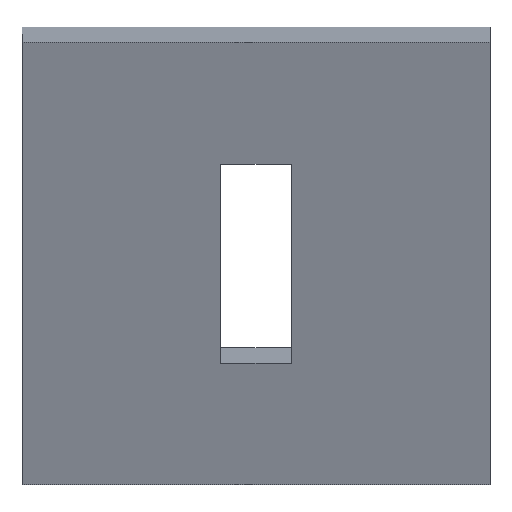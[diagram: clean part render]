
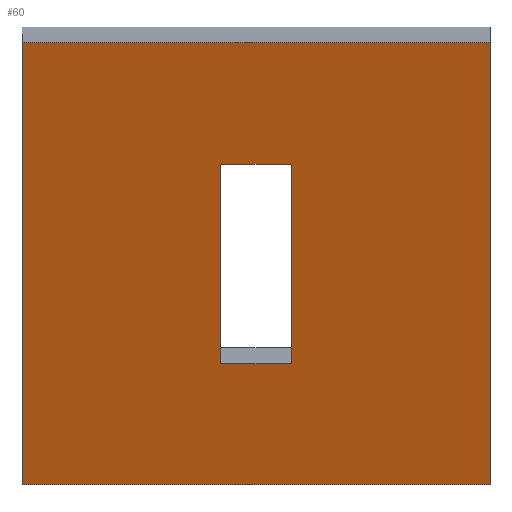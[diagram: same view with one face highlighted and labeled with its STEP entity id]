
A CAD part, left-side view. The second image highlights one B-rep face of the part: STEP entity #60.
In plain terms, the highlighted planar face has unit normal (-0.946, 0, -0.326).
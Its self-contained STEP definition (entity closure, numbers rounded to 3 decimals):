
#60=ADVANCED_FACE('',(#82,#83),#84,.T.);
#82=FACE_BOUND('',#105,.T.);
#83=FACE_OUTER_BOUND('',#106,.T.);
#84=PLANE('',#107);
#105=EDGE_LOOP('',(#176,#177,#178,#179));
#106=EDGE_LOOP('',(#180,#181,#182,#183));
#107=AXIS2_PLACEMENT_3D('',#184,#185,#186);
#176=ORIENTED_EDGE('',*,*,#195,.T.);
#177=ORIENTED_EDGE('',*,*,#198,.T.);
#178=ORIENTED_EDGE('',*,*,#188,.T.);
#179=ORIENTED_EDGE('',*,*,#192,.T.);
#180=ORIENTED_EDGE('',*,*,#200,.F.);
#181=ORIENTED_EDGE('',*,*,#210,.F.);
#182=ORIENTED_EDGE('',*,*,#207,.F.);
#183=ORIENTED_EDGE('',*,*,#204,.F.);
#184=CARTESIAN_POINT('',(211.434,31.5,-12.425));
#185=DIRECTION('',(-0.946,0.,-0.326));
#186=DIRECTION('',(0.326,0.,-0.946));
#188=EDGE_CURVE('',#212,#213,#214,.T.);
#192=EDGE_CURVE('',#213,#220,#221,.T.);
#195=EDGE_CURVE('',#220,#225,#226,.T.);
#198=EDGE_CURVE('',#225,#212,#230,.T.);
#200=EDGE_CURVE('',#232,#233,#234,.T.);
#204=EDGE_CURVE('',#233,#240,#241,.T.);
#207=EDGE_CURVE('',#240,#245,#246,.T.);
#210=EDGE_CURVE('',#245,#232,#250,.T.);
#212=VERTEX_POINT('',#252);
#213=VERTEX_POINT('',#253);
#214=LINE('',#254,#255);
#220=VERTEX_POINT('',#264);
#221=LINE('',#265,#266);
#225=VERTEX_POINT('',#272);
#226=LINE('',#273,#274);
#230=LINE('',#280,#281);
#232=VERTEX_POINT('',#284);
#233=VERTEX_POINT('',#285);
#234=LINE('',#286,#287);
#240=VERTEX_POINT('',#296);
#241=LINE('',#297,#298);
#245=VERTEX_POINT('',#304);
#246=LINE('',#305,#306);
#250=LINE('',#312,#313);
#252=CARTESIAN_POINT('',(209.969,30.,-8.17));
#253=CARTESIAN_POINT('',(212.899,30.,-16.68));
#254=CARTESIAN_POINT('',(210.702,30.,-10.298));
#255=VECTOR('',#316,1.0);
#264=CARTESIAN_POINT('',(212.899,33.,-16.68));
#265=CARTESIAN_POINT('',(212.899,30.75,-16.68));
#266=VECTOR('',#320,1.0);
#272=CARTESIAN_POINT('',(209.969,33.,-8.17));
#273=CARTESIAN_POINT('',(212.167,33.,-14.553));
#274=VECTOR('',#323,1.0);
#280=CARTESIAN_POINT('',(209.969,32.25,-8.17));
#281=VECTOR('',#326,1.0);
#284=CARTESIAN_POINT('',(214.69,41.5,-21.88));
#285=CARTESIAN_POINT('',(208.179,41.5,-2.97));
#286=CARTESIAN_POINT('',(214.69,41.5,-21.88));
#287=VECTOR('',#328,1.0);
#296=CARTESIAN_POINT('',(208.179,21.5,-2.97));
#297=CARTESIAN_POINT('',(208.179,41.5,-2.97));
#298=VECTOR('',#332,1.0);
#304=CARTESIAN_POINT('',(214.69,21.5,-21.88));
#305=CARTESIAN_POINT('',(208.179,21.5,-2.97));
#306=VECTOR('',#335,1.0);
#312=CARTESIAN_POINT('',(214.69,21.5,-21.88));
#313=VECTOR('',#338,1.0);
#316=DIRECTION('',(0.326,0.0,-0.946));
#320=DIRECTION('',(0.,1.0,0.));
#323=DIRECTION('',(-0.326,-0.0,0.946));
#326=DIRECTION('',(0.,-1.0,0.));
#328=DIRECTION('',(-0.326,-0.0,0.946));
#332=DIRECTION('',(0.,-1.0,0.));
#335=DIRECTION('',(0.326,0.0,-0.946));
#338=DIRECTION('',(0.,1.0,0.));
